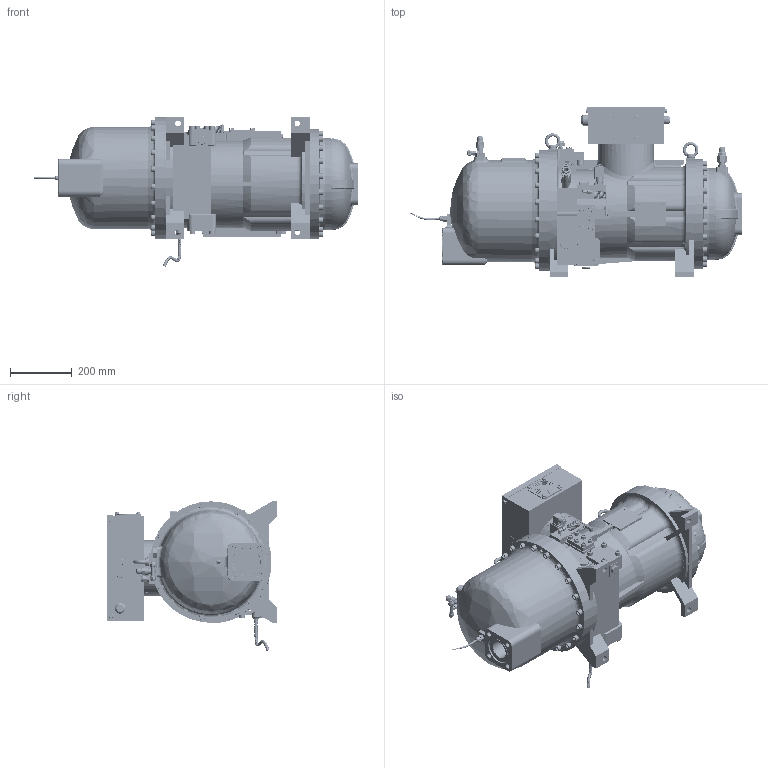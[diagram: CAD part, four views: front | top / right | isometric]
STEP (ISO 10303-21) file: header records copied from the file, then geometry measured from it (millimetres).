
FILE_DESCRIPTION (( 'STEP AP203' ), '1' );
FILE_NAME ('RC2-180BF.STEP', '2014-04-02T09:57:00', ( 'jameswang' ), ( '' ), 'SwSTEP 2.0', 'SolidWorks 2013', '' );
FILE_SCHEMA (( 'CONFIG_CONTROL_DESIGN' ));
Products named in the file (1): RC2-180BF
Bounding box: 1073.44 x 552.1 x 482.74 mm (x, y, z)
Surface area: 2450240.2 mm2 (no closed solid volume)
Topology: 0 solids, 168 shells, 2686 faces, 9638 edges, 6980 vertices
Faces by surface type: plane 1099, cylinder 991, bspline 213, cone 207, torus 165, sphere 11
Entity records: 152268 total; most frequent: CARTESIAN_POINT 72081, DIRECTION 16850, ORIENTED_EDGE 14865, EDGE_CURVE 9623, VERTEX_POINT 6974, AXIS2_PLACEMENT_3D 6395, LINE 4060, VECTOR 4060
